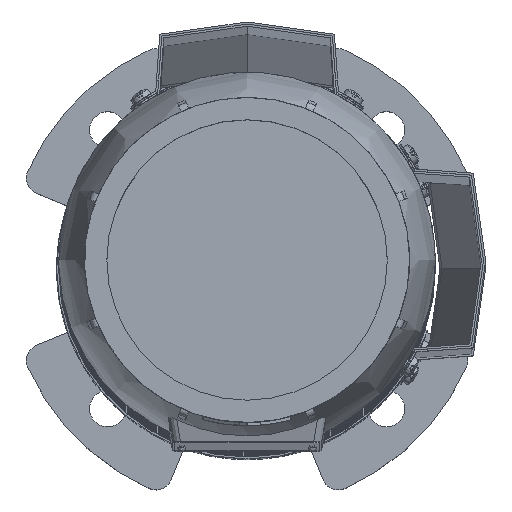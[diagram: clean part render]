
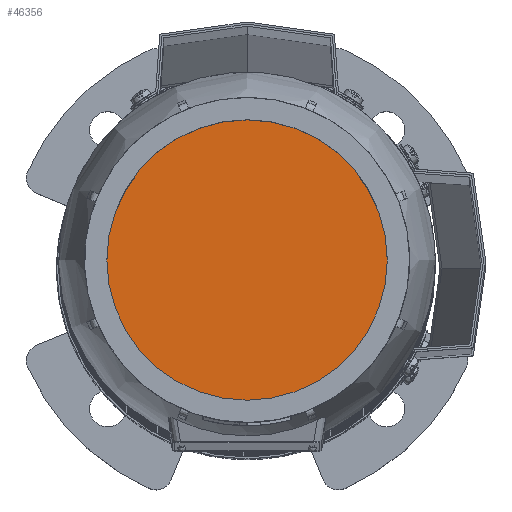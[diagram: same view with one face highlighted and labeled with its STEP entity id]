
A CAD part, top view. The second image highlights one B-rep face of the part: STEP entity #46356.
In plain terms, the highlighted planar face has unit normal (0, 0, 1) as drawn and (0, 1, 0) by its records, which use the part's own axes.
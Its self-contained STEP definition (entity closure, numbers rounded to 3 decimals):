
#9749=ORIENTED_EDGE('',*,*,#23695,.F.);
#23695=EDGE_CURVE('',#30668,#30668,#35375,.T.);
#30668=VERTEX_POINT('',#67002);
#35375=CIRCLE('',#48915,67.736);
#37497=EDGE_LOOP('',(#9749));
#40911=FACE_BOUND('',#37497,.T.);
#44343=PLANE('',#48914);
#46356=ADVANCED_FACE('',(#40911),#44343,.F.);
#48914=AXIS2_PLACEMENT_3D('',#67000,#53529,#53530);
#48915=AXIS2_PLACEMENT_3D('',#67001,#53531,#53532);
#53529=DIRECTION('',(0.,-1.,0.));
#53530=DIRECTION('',(0.,0.,-1.));
#53531=DIRECTION('',(0.,-1.,0.));
#53532=DIRECTION('',(0.,0.,-1.));
#67000=CARTESIAN_POINT('',(0.,154.,0.));
#67001=CARTESIAN_POINT('',(0.,154.,0.));
#67002=CARTESIAN_POINT('',(0.,154.,-67.736));
